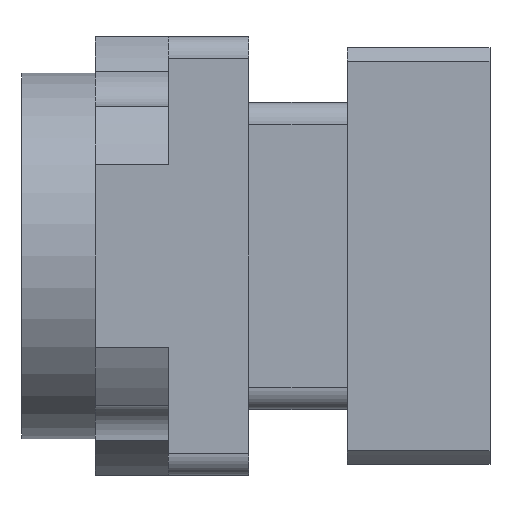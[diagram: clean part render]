
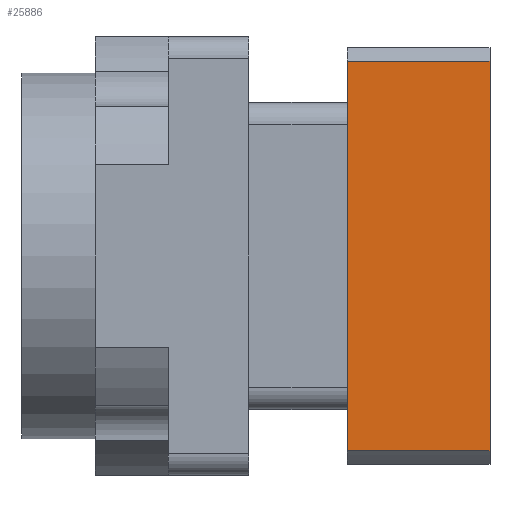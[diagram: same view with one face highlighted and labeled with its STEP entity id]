
A CAD part, left-side view. The second image highlights one B-rep face of the part: STEP entity #25886.
In plain terms, the highlighted planar face has unit normal (-1, 0, 0).
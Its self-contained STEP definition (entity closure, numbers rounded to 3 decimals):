
#1308 = LINE ( 'NONE', #31745, #37290 ) ;
#4299 = CARTESIAN_POINT ( 'NONE',  ( 5.1, -33., 26.622 ) ) ;
#4392 = FACE_OUTER_BOUND ( 'NONE', #10814, .T. ) ;
#4550 = LINE ( 'NONE', #36451, #10596 ) ;
#8454 = DIRECTION ( 'NONE',  ( 0., 0., 1. ) ) ;
#8478 = ORIENTED_EDGE ( 'NONE', *, *, #32253, .T. ) ;
#9466 = ORIENTED_EDGE ( 'NONE', *, *, #43493, .F. ) ;
#9753 = EDGE_CURVE ( 'NONE', #39519, #20174, #4550, .T. ) ;
#10596 = VECTOR ( 'NONE', #26097, 1000. ) ;
#10814 = EDGE_LOOP ( 'NONE', ( #8478, #13277, #9466, #26371 ) ) ;
#12532 = EDGE_CURVE ( 'NONE', #24793, #41074, #20242, .T. ) ;
#13027 = DIRECTION ( 'NONE',  ( 0., 0., -1. ) ) ;
#13277 = ORIENTED_EDGE ( 'NONE', *, *, #12532, .T. ) ;
#16860 = CARTESIAN_POINT ( 'NONE',  ( 5.1, -33., -26.622 ) ) ;
#19175 = VECTOR ( 'NONE', #39947, 1000. ) ;
#19194 = CARTESIAN_POINT ( 'NONE',  ( 5.1, -13.5, -26.622 ) ) ;
#20174 = VERTEX_POINT ( 'NONE', #41292 ) ;
#20242 = LINE ( 'NONE', #36376, #19175 ) ;
#22053 = AXIS2_PLACEMENT_3D ( 'NONE', #39610, #29323, #8454 ) ;
#24793 = VERTEX_POINT ( 'NONE', #19194 ) ;
#25886 = ADVANCED_FACE ( 'NONE', ( #4392 ), #29168, .T. ) ;
#26097 = DIRECTION ( 'NONE',  ( 0., 1., 0. ) ) ;
#26371 = ORIENTED_EDGE ( 'NONE', *, *, #9753, .T. ) ;
#29168 = PLANE ( 'NONE',  #22053 ) ;
#29323 = DIRECTION ( 'NONE',  ( -1., 0., 0. ) ) ;
#31745 = CARTESIAN_POINT ( 'NONE',  ( 5.1, -13.5, 26.622 ) ) ;
#32253 = EDGE_CURVE ( 'NONE', #20174, #24793, #1308, .T. ) ;
#33830 = CARTESIAN_POINT ( 'NONE',  ( 5.1, -33., 0. ) ) ;
#35803 = LINE ( 'NONE', #33830, #44984 ) ;
#36376 = CARTESIAN_POINT ( 'NONE',  ( 5.1, -13.5, -26.622 ) ) ;
#36451 = CARTESIAN_POINT ( 'NONE',  ( 5.1, -13.5, 26.622 ) ) ;
#37290 = VECTOR ( 'NONE', #42185, 1000. ) ;
#39519 = VERTEX_POINT ( 'NONE', #4299 ) ;
#39610 = CARTESIAN_POINT ( 'NONE',  ( 5.1, -13.5, 26.622 ) ) ;
#39947 = DIRECTION ( 'NONE',  ( 0., -1., 0. ) ) ;
#41074 = VERTEX_POINT ( 'NONE', #16860 ) ;
#41292 = CARTESIAN_POINT ( 'NONE',  ( 5.1, -13.5, 26.622 ) ) ;
#42185 = DIRECTION ( 'NONE',  ( 0., 0., -1. ) ) ;
#43493 = EDGE_CURVE ( 'NONE', #39519, #41074, #35803, .T. ) ;
#44984 = VECTOR ( 'NONE', #13027, 1000. ) ;
